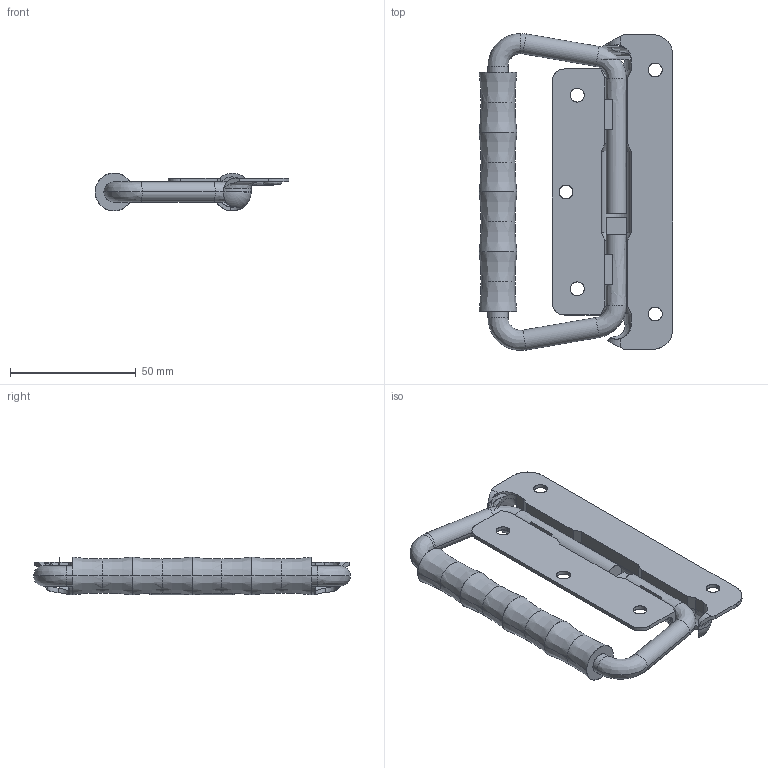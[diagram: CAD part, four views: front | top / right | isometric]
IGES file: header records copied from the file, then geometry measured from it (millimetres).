
Start section: SolidWorks IGES file using analytic representation for surfaces
Global section: file name: C:\Users\cbrechard\Desktop\PO 300 .IGS; native system: SolidWorks 2017; preprocessor: SolidWorks 2017; author: cbrechard; date: 240422.143617; units: millimetre
Bounding box: 77 x 126 x 15 mm (x, y, z)
Surface area: 24649.9 mm2 (no closed solid volume)
Topology: 0 solids, 0 shells, 266 faces, 2654 edges, 2642 vertices
Faces by surface type: bspline 148, revolution 118
